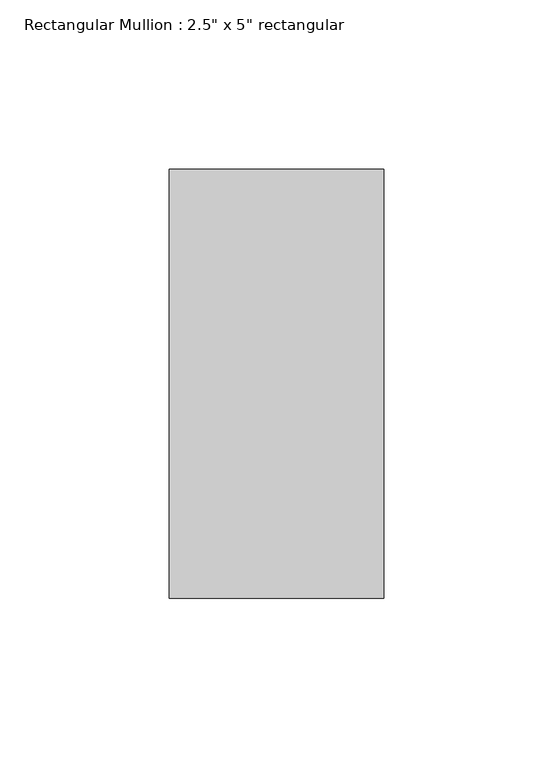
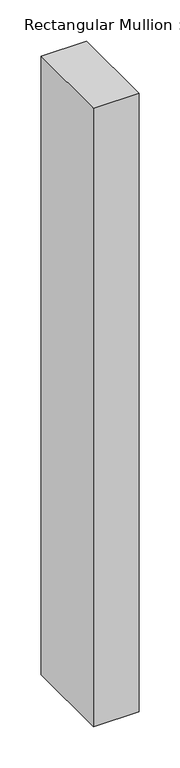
"""IFC4 building model written with IfcOpenShell, lengths in millimetres: member geometry."""

import ifcopenshell
import ifcopenshell.guid

model = None  # the IFC model being written
_history = None  # IfcOwnerHistory: only IFC2X3 demands one
_inside = {}  # id of a spatial element -> (the spatial element, [elements in it])
_under = {}  # id of a project, library or spatial element -> (it, [spatial elements below it])
_declared = {}  # id of a project -> (the project, [libraries it declares])
_typed = {}  # id of a type object -> (the type object, [elements of that type])
_made_of = {}  # id of a material, layer set ... -> (it, [elements and type objects made of it])


def new_model(schema):
    """Start an empty IFC model of exactly this schema.

    Asked for "IFC4X3", IfcOpenShell would pick the latest addendum, in which some entities
    have other attributes; the version numbers below select the first issue.
    IFC2X3 requires an IfcOwnerHistory on every rooted entity: one is made here for all.
    """
    global model, _history
    if schema == "IFC4X3":
        model = ifcopenshell.file(schema_version=(4, 3, 0, 0))
    else:
        model = ifcopenshell.file(schema=schema)
    _inside.clear()
    _under.clear()
    _declared.clear()
    _typed.clear()
    _made_of.clear()
    _history = None
    if model.schema == "IFC2X3":
        org = make("IfcOrganization", Name="unknown")
        user = make(
            "IfcPersonAndOrganization",
            ThePerson=make("IfcPerson", FamilyName="unknown"),
            TheOrganization=org,
        )
        app = make(
            "IfcApplication",
            ApplicationDeveloper=org,
            Version="unknown",
            ApplicationFullName="unknown",
            ApplicationIdentifier="unknown",
        )
        _history = make(
            "IfcOwnerHistory",
            OwningUser=user,
            OwningApplication=app,
            ChangeAction="ADDED",
            CreationDate=0,
        )
    return model


def make(cls, **values):
    """One entity of the class cls with the attributes given. An attribute that is None is left unset."""
    return model.create_entity(
        cls, **{name: value for name, value in values.items() if value is not None}
    )


def rooted(cls, **values):
    """An entity with a GlobalId (a new one), such as an element, a storey or a relation."""
    return make(cls, GlobalId=ifcopenshell.guid.new(), OwnerHistory=_history, **values)


def si_unit(unit_type, name, prefix=None):
    """IfcSIUnit, for example si_unit("LENGTHUNIT", "METRE", prefix="MILLI")."""
    return make("IfcSIUnit", UnitType=unit_type, Prefix=prefix, Name=name)


def assignment(units):
    """IfcUnitAssignment: the units of a project."""
    return None if units is None else make("IfcUnitAssignment", Units=units)


def point(xyz):
    """IfcCartesianPoint."""
    return None if xyz is None else make("IfcCartesianPoint", Coordinates=xyz)


def direction(xyz):
    """IfcDirection."""
    return None if xyz is None else make("IfcDirection", DirectionRatios=xyz)


def frame(location, z_axis=None, x_axis=None):
    """IfcAxis2Placement3D, a coordinate frame: its origin and axes. An axis left out is left unset."""
    return make(
        "IfcAxis2Placement3D",
        Location=point(location),
        Axis=direction(z_axis),
        RefDirection=direction(x_axis),
    )


def origin():
    """The frame at (0, 0, 0) with its axes left unset."""
    return frame((0.0, 0.0, 0.0))


def place(relative_to, where):
    """IfcLocalPlacement: puts the frame where relative to a parent placement (None: the world)."""
    return make(
        "IfcLocalPlacement", PlacementRelTo=relative_to, RelativePlacement=where
    )


def context(
    kind, dimensions, precision=None, world=None, true_north=None, identifier=None
):
    """IfcGeometricRepresentationContext, for example the 3D "Model" context."""
    return make(
        "IfcGeometricRepresentationContext",
        ContextIdentifier=identifier,
        ContextType=kind,
        CoordinateSpaceDimension=dimensions,
        Precision=precision,
        WorldCoordinateSystem=world,
        TrueNorth=true_north,
    )


def project(units=None, contexts=None):
    """IfcProject with its units and contexts."""
    return rooted(
        "IfcProject",
        Name="project",
        RepresentationContexts=contexts,
        UnitsInContext=assignment(units),
    )


def spatial(cls, under=None, at=None, **own):
    """A site, building, storey or space (cls), placed at a placement, below another one or the project."""
    s = rooted(cls, ObjectPlacement=at, **own)
    if under is not None:
        _under.setdefault(under.id(), (under, []))[1].append(s)
    return s


def polyline(points):
    """IfcPolyline through the points."""
    return make("IfcPolyline", Points=[point(p) for p in points])


def outline(outer, holes=None, kind="AREA"):
    """IfcArbitraryClosedProfileDef: a profile drawn as a closed curve; with holes, ...WithVoids."""
    if holes is None:
        return make("IfcArbitraryClosedProfileDef", ProfileType=kind, OuterCurve=outer)
    return make(
        "IfcArbitraryProfileDefWithVoids",
        ProfileType=kind,
        OuterCurve=outer,
        InnerCurves=holes,
    )


def extrude(swept, where, along, depth):
    """IfcExtrudedAreaSolid: the profile swept, set in the frame where, extruded along a direction by depth."""
    return make(
        "IfcExtrudedAreaSolid",
        SweptArea=swept,
        Position=where,
        ExtrudedDirection=direction(along),
        Depth=depth,
    )


def shape(context_of_items, identifier, shape_type, items):
    """IfcShapeRepresentation: the items that make up one representation, for example the "Body"."""
    return make(
        "IfcShapeRepresentation",
        ContextOfItems=context_of_items,
        RepresentationIdentifier=identifier,
        RepresentationType=shape_type,
        Items=items,
    )


def source(mapping_origin, context_of_items, identifier, shape_type, items):
    """IfcRepresentationMap: a shape defined once, which mapped items show again and again."""
    return make(
        "IfcRepresentationMap",
        MappingOrigin=mapping_origin,
        MappedRepresentation=shape(context_of_items, identifier, shape_type, items),
    )


def transform(
    local_origin,
    x_axis=None,
    y_axis=None,
    z_axis=None,
    scale=None,
    scale2=None,
    scale3=None,
    uniform=True,
):
    """IfcCartesianTransformationOperator3D, or its non-uniform kind. x_axis, y_axis, z_axis: its Axis1, 2, 3."""
    if uniform:
        return make(
            "IfcCartesianTransformationOperator3D",
            Axis1=direction(x_axis),
            Axis2=direction(y_axis),
            LocalOrigin=point(local_origin),
            Scale=scale,
            Axis3=direction(z_axis),
        )
    return make(
        "IfcCartesianTransformationOperator3DnonUniform",
        Axis1=direction(x_axis),
        Axis2=direction(y_axis),
        LocalOrigin=point(local_origin),
        Scale=scale,
        Axis3=direction(z_axis),
        Scale2=scale2,
        Scale3=scale3,
    )


def mapped(mapping_source, mapping_target):
    """IfcMappedItem: shows the shape of a source again, moved by a transform."""
    return make(
        "IfcMappedItem", MappingSource=mapping_source, MappingTarget=mapping_target
    )


def made_of(thing, what):
    """Note that an element or type object is made of a material, layer set ...; save() writes the relation."""
    if what is not None:
        _made_of.setdefault(what.id(), (what, []))[1].append(thing)
    return thing


def element(
    cls,
    number,
    at=None,
    inside=None,
    cuts=None,
    type_object=None,
    material=None,
    context=None,
    identifier="Body",
    shape_type=None,
    held_by="IfcProductDefinitionShape",
    body=None,
    shapes=None,
    **own,
):
    """One element of the class cls, such as IfcWall. Its Tag is "e" and its number.

    at: its placement. inside: the storey or other place that contains it. cuts: it is an
    opening in that element (IfcRelVoidsElement). A single representation is given by context,
    identifier, shape_type and body (its items); several are given by shapes. held_by: the class
    of the entity that holds the representations. save() writes the other relations.
    """
    e = rooted(cls, Tag="e%d" % number, ObjectPlacement=at, **own)
    if body is not None:
        shapes = [shape(context, identifier, shape_type, body)]
    if shapes is not None:
        e.Representation = make(held_by, Representations=shapes)
    if inside is not None:
        _inside.setdefault(inside.id(), (inside, []))[1].append(e)
    if cuts is not None:
        rooted(
            "IfcRelVoidsElement", RelatingBuildingElement=cuts, RelatedOpeningElement=e
        )
    if type_object is not None:
        _typed.setdefault(type_object.id(), (type_object, []))[1].append(e)
    return made_of(e, material)


def aggregate(whole, parts):
    """IfcRelAggregates: a whole, such as a stair, and the parts it consists of."""
    return rooted("IfcRelAggregates", RelatingObject=whole, RelatedObjects=parts)


def save(model, path):
    """Write the relations noted so far, then the file.

    IfcRelAggregates (storeys below a building ...), IfcRelContainedInSpatialStructure (elements
    in a storey), IfcRelDefinesByType, IfcRelAssociatesMaterial and IfcRelDeclares: one each for
    every whole, place, type object, material and project.
    """
    for whole, parts in _under.values():
        aggregate(whole, parts)
    for where, things in _inside.values():
        rooted(
            "IfcRelContainedInSpatialStructure",
            RelatedElements=things,
            RelatingStructure=where,
        )
    for kind, things in _typed.values():
        rooted("IfcRelDefinesByType", RelatedObjects=things, RelatingType=kind)
    for what, things in _made_of.values():
        rooted("IfcRelAssociatesMaterial", RelatedObjects=things, RelatingMaterial=what)
    for by, libraries in _declared.values():
        rooted("IfcRelDeclares", RelatingContext=by, RelatedDefinitions=libraries)
    model.write(path)


def member_410c6227(model_context):
    return source(origin(), model_context, "Body", "SweptSolid", [
        extrude(outline(polyline([(31.75, 63.5), (31.75, -63.5), (-31.75, -63.5), (-31.75, 63.5), (31.75, 63.5)])), frame((0.0, 0.0, -914.4), z_axis=(0.0, 0.0, 1.0), x_axis=(1.0, 0.0, 0.0)), (0.0, 0.0, 1.0), 914.4),
    ])


if __name__ == "__main__":
    model = new_model("IFC4")
    model_context = context("Model", 3, world=origin())
    ifc_project = project(units=[si_unit("LENGTHUNIT", "METRE", prefix="MILLI")], contexts=[model_context])
    site = spatial("IfcSite", under=ifc_project)
    building = spatial("IfcBuilding", under=site)
    placement = place(None, origin())
    member_shape = member_410c6227(model_context)
    element("IfcMember", 1, ObjectType="Rectangular Mullion : 2.5\" x 5\" rectangular", at=placement, inside=building, context=model_context, shape_type="MappedRepresentation", body=[
        mapped(member_shape, transform((0.0, 0.0, 0.0), x_axis=(1.0, 0.0, 0.0), y_axis=(0.0, 1.0, 0.0), z_axis=(0.0, 0.0, 1.0))),
    ])
    save(model, "model.ifc")
